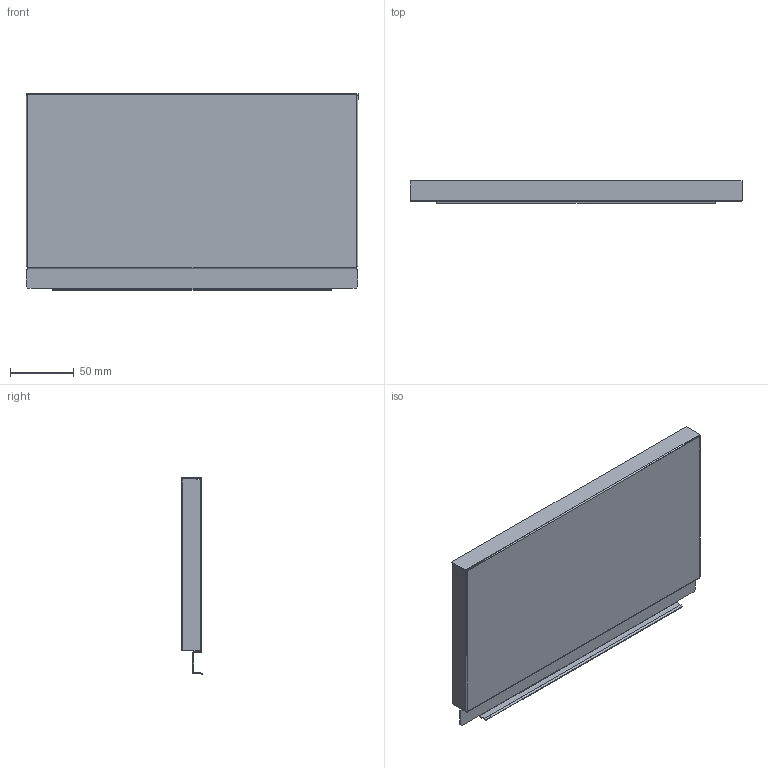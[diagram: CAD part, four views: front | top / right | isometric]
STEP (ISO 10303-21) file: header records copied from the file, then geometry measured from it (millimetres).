
FILE_DESCRIPTION (( 'STEP AP214' ), '1' );
FILE_NAME ('_STRW_H154_KAB_350.step', '2010-08-24T14:40:33', ( 'grass' ), ( '' ), 'SwSTEP 2.0', 'SolidWorks 2009', '' );
FILE_SCHEMA (( 'AUTOMOTIVE_DESIGN' ));
Length unit declared in the file: millimetre
Products named in the file (1): _STRW_H154_KAB_350
Bounding box: 260 x 17 x 154.14 mm (x, y, z)
Volume: 41739.9 mm3; surface area: 105134 mm2
Topology: 1 solids, 1 shells, 76 faces, 214 edges, 140 vertices
Faces by surface type: plane 54, cylinder 22
Entity records: 2472 total; most frequent: CARTESIAN_POINT 431, ORIENTED_EDGE 428, DIRECTION 412, EDGE_CURVE 214, LINE 170, VECTOR 170, VERTEX_POINT 140, AXIS2_PLACEMENT_3D 121
